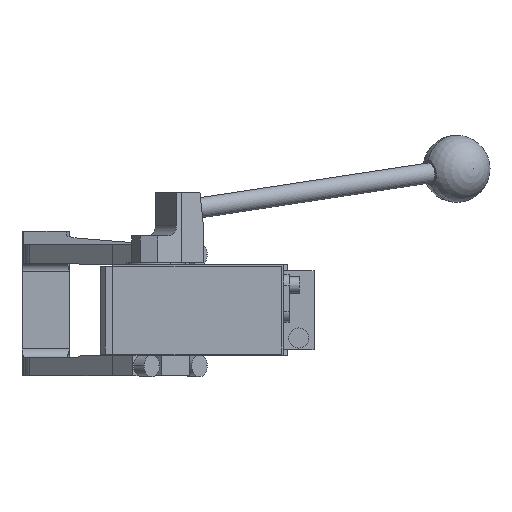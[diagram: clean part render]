
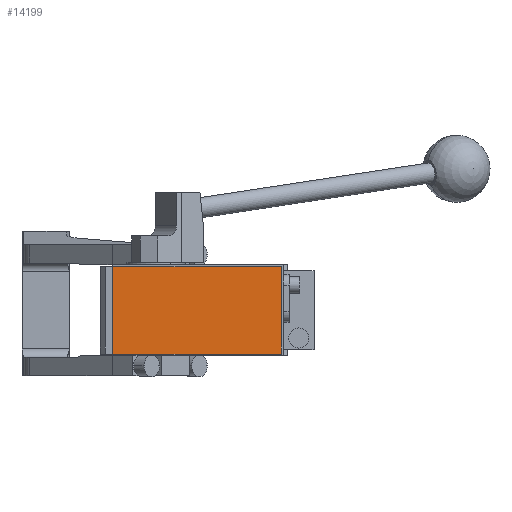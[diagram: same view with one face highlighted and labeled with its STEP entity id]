
A CAD part, front view. The second image highlights one B-rep face of the part: STEP entity #14199.
In plain terms, the highlighted planar face has unit normal (0, -1, 0).
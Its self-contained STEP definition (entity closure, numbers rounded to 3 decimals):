
#356 = DIRECTION ( 'NONE',  ( 0., 0., -1. ) ) ;
#860 = ORIENTED_EDGE ( 'NONE', *, *, #8979, .T. ) ;
#1398 = CARTESIAN_POINT ( 'NONE',  ( -19., -286.5, -26. ) ) ;
#1623 = PLANE ( 'NONE',  #4068 ) ;
#1853 = EDGE_CURVE ( 'NONE', #14188, #4564, #2825, .T. ) ;
#1931 = EDGE_LOOP ( 'NONE', ( #5841, #860, #3170, #4819 ) ) ;
#2825 = LINE ( 'NONE', #3815, #12080 ) ;
#2830 = CARTESIAN_POINT ( 'NONE',  ( -19., -286.5, -26. ) ) ;
#2853 = CARTESIAN_POINT ( 'NONE',  ( 0., -286.5, 0. ) ) ;
#3068 = EDGE_CURVE ( 'NONE', #4564, #14021, #14732, .T. ) ;
#3126 = DIRECTION ( 'NONE',  ( -1., 0., 0. ) ) ;
#3170 = ORIENTED_EDGE ( 'NONE', *, *, #1853, .T. ) ;
#3815 = CARTESIAN_POINT ( 'NONE',  ( 81., -286.5, 26. ) ) ;
#3892 = DIRECTION ( 'NONE',  ( 0., 0., 1. ) ) ;
#4068 = AXIS2_PLACEMENT_3D ( 'NONE', #2853, #10651, #12107 ) ;
#4564 = VERTEX_POINT ( 'NONE', #14097 ) ;
#4798 = VERTEX_POINT ( 'NONE', #1398 ) ;
#4819 = ORIENTED_EDGE ( 'NONE', *, *, #3068, .T. ) ;
#4984 = EDGE_CURVE ( 'NONE', #14021, #4798, #8692, .T. ) ;
#5841 = ORIENTED_EDGE ( 'NONE', *, *, #4984, .T. ) ;
#6068 = FACE_OUTER_BOUND ( 'NONE', #1931, .T. ) ;
#6346 = DIRECTION ( 'NONE',  ( 1., 0., 0. ) ) ;
#7323 = CARTESIAN_POINT ( 'NONE',  ( -19., -286.5, 26. ) ) ;
#8692 = LINE ( 'NONE', #7323, #9011 ) ;
#8898 = CARTESIAN_POINT ( 'NONE',  ( -19., -286.5, 26. ) ) ;
#8930 = CARTESIAN_POINT ( 'NONE',  ( -19., -286.5, 26. ) ) ;
#8979 = EDGE_CURVE ( 'NONE', #4798, #14188, #13301, .T. ) ;
#9011 = VECTOR ( 'NONE', #356, 1000. ) ;
#10651 = DIRECTION ( 'NONE',  ( 0., -1., 0. ) ) ;
#10729 = CARTESIAN_POINT ( 'NONE',  ( 81., -286.5, -26. ) ) ;
#12080 = VECTOR ( 'NONE', #3892, 1000. ) ;
#12107 = DIRECTION ( 'NONE',  ( 0., 0., -1. ) ) ;
#13301 = LINE ( 'NONE', #2830, #14758 ) ;
#13535 = VECTOR ( 'NONE', #3126, 1000. ) ;
#14021 = VERTEX_POINT ( 'NONE', #8898 ) ;
#14097 = CARTESIAN_POINT ( 'NONE',  ( 81., -286.5, 26. ) ) ;
#14188 = VERTEX_POINT ( 'NONE', #10729 ) ;
#14199 = ADVANCED_FACE ( 'NONE', ( #6068 ), #1623, .T. ) ;
#14732 = LINE ( 'NONE', #8930, #13535 ) ;
#14758 = VECTOR ( 'NONE', #6346, 1000. ) ;
